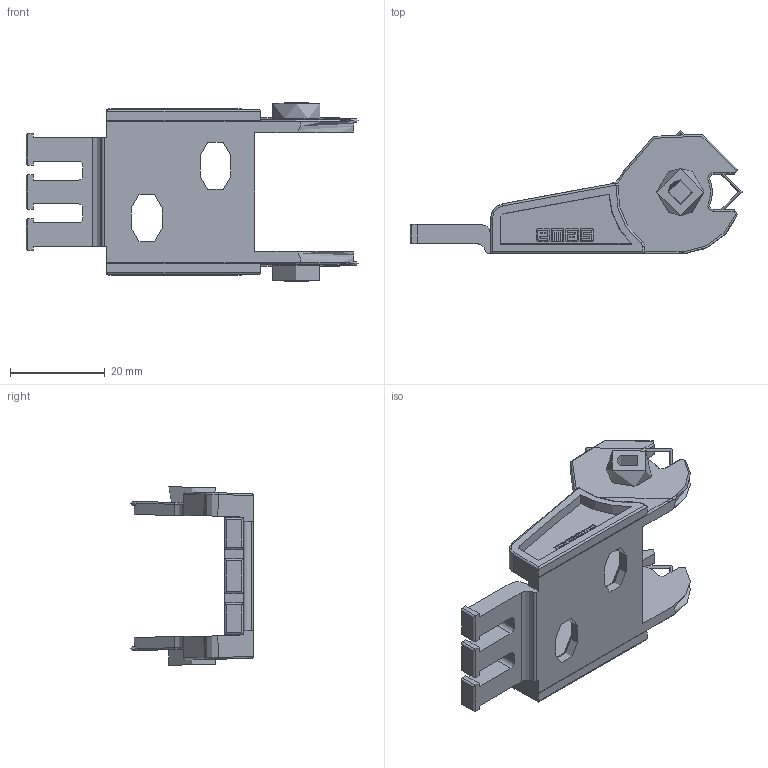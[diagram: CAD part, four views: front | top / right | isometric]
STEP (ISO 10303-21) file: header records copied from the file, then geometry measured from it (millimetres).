
FILE_DESCRIPTION((''),'2; 1');
FILE_NAME('','2026-03-26T10:13:25',(''),(''),'CST STEP Exporter V1.0','Unknown','');
FILE_SCHEMA(('CONFIG_CONTROL_DESIGN'));
Length unit declared in the file: metre
Bounding box: 70 x 26 x 37.62 mm (x, y, z)
Topology: 0 solids, 5 shells, 336 faces, 1049 edges, 715 vertices
Faces by surface type: plane 183, cylinder 101, extrusion 28, torus 14, cone 10
Full cylindrical faces by diameter (mm): 0.8 x2, 9.9 x2
Entity records: 15046 total; most frequent: CARTESIAN_POINT 3154, DIRECTION 1862, ORIENTED_EDGE 1862, EDGE_CURVE 1042, VERTEX_POINT 694, VECTOR 694, LINE 666, AXIS2_PLACEMENT_3D 584
